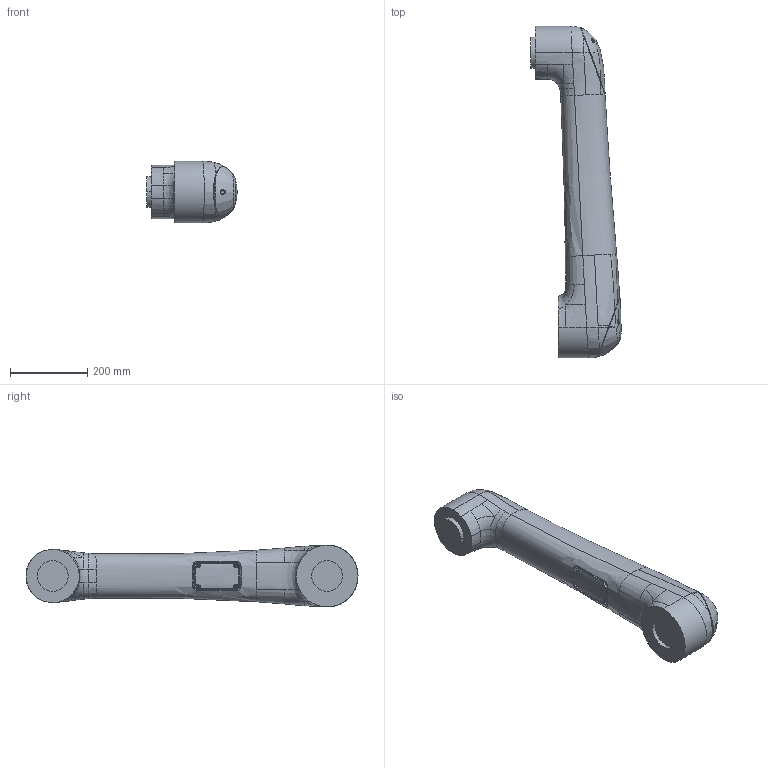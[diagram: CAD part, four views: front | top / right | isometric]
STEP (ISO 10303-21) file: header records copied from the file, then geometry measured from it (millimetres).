
FILE_DESCRIPTION(/* description */ ('AP214 STEP file'),/* implementation_level */ '2;1');
FILE_NAME(/* name */ '1300_model-c003_stp',/* time_stamp */ '2023-03-07T19:20:55+09:00',/* author */ (''),/* organization */ (''),/* preprocessor_version */ '7.2.1.0',/* originating_system */ 'Elysium Co. Ltd. STEP Translator',/* authorisation */ '');
FILE_SCHEMA (('AUTOMOTIVE_DESIGN'));
Length unit declared in the file: millimetre
Products named in the file (1): 1300_MODEL-C003
Bounding box: 233.7 x 859.01 x 160.02 mm (x, y, z)
Volume: 12764810.6 mm3; surface area: 426208.9 mm2
Topology: 1 solids, 1 shells, 576 faces, 1387 edges, 836 vertices
Faces by surface type: bspline 179, plane 170, cylinder 98, cone 57, torus 42, sphere 20, extrusion 10
Entity records: 31313 total; most frequent: CARTESIAN_POINT 19904, ORIENTED_EDGE 2774, DIRECTION 1428, EDGE_CURVE 1387, AXIS2_PLACEMENT_3D 863, VERTEX_POINT 836, EDGE_LOOP 599, ADVANCED_FACE 576
